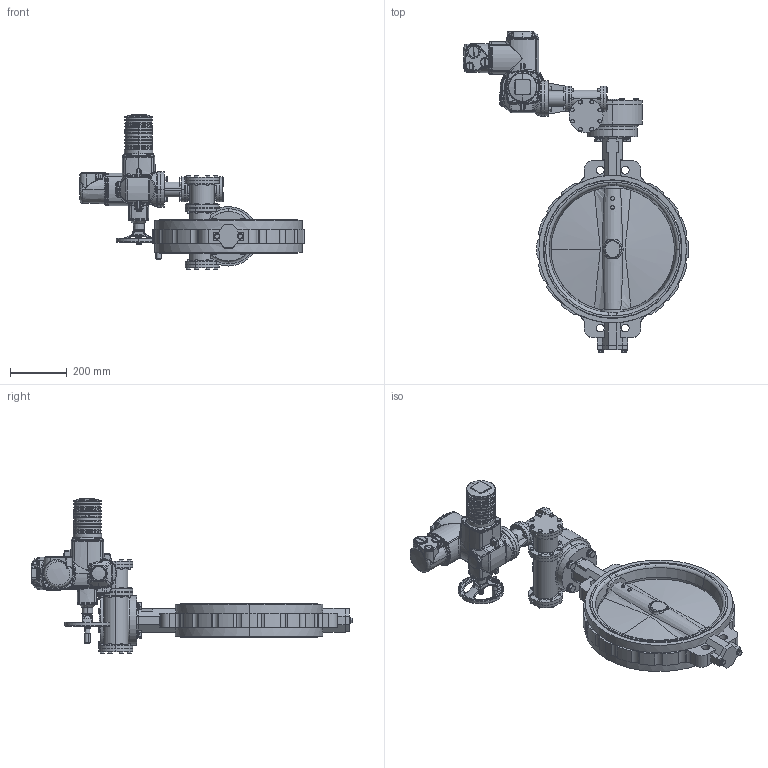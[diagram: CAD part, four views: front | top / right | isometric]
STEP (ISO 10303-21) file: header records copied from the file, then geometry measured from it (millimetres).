
FILE_DESCRIPTION (( 'STEP AP214' ), '1' );
FILE_NAME ('VPE440X-U04EP0450.STEP', '2020-08-04T10:00:26', ( '' ), ( '' ), 'SwSTEP 2.0', 'SolidWorks 2017', '' );
FILE_SCHEMA (( 'AUTOMOTIVE_DESIGN' ));
Length unit declared in the file: millimetre
Products named in the file (1): VPE440X-U04EP0450
Bounding box: 795.77 x 1135.8 x 546.46 mm (x, y, z)
Surface area: 2110925.8 mm2 (no closed solid volume)
Topology: 0 solids, 179 shells, 2035 faces, 6953 edges, 4782 vertices
Faces by surface type: plane 615, bspline 603, cylinder 459, cone 318, torus 40
Entity records: 324568 total; most frequent: CARTESIAN_POINT 250089, ORIENTED_EDGE 10682, DIRECTION 9030, EDGE_CURVE 6907, VERTEX_POINT 4782, AXIS2_PLACEMENT_3D 3459, B_SPLINE_CURVE_WITH_KNOTS 2616, EDGE_LOOP 2214
